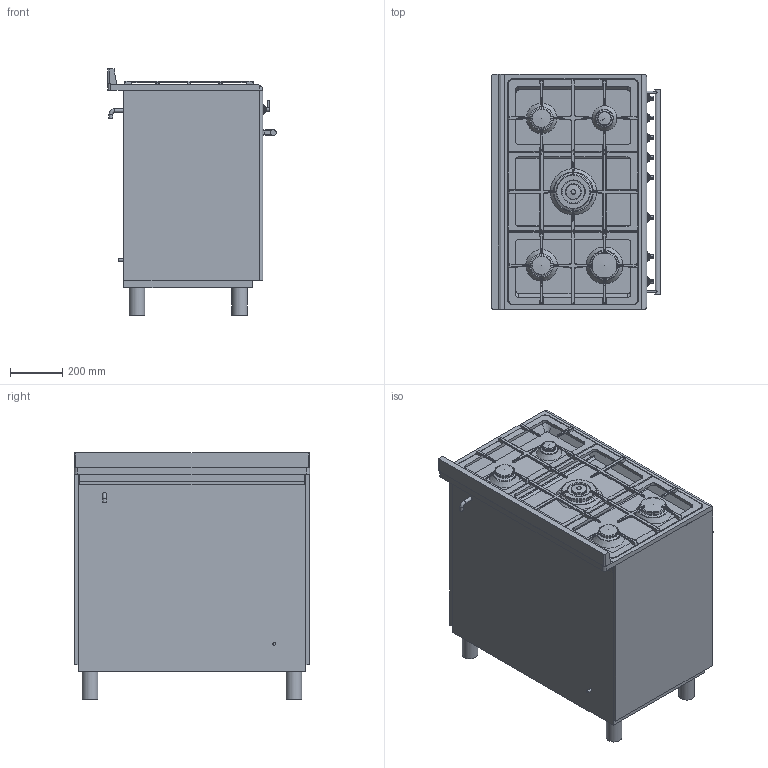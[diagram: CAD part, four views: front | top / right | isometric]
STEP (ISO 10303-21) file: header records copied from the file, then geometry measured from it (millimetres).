
FILE_DESCRIPTION(/* description */ (''),/* implementation_level */ '2;1');
FILE_NAME(/* name */ 'FS9010XS-1.stp',/* time_stamp */ '2021-08-03T17:01:35+02:00',/* author */ (''),/* organization */ (''),/* preprocessor_version */ 'ST-DEVELOPER v16',/* originating_system */ 'SIEMENS PLM Software NX 11.0',/* authorisation */ '');
FILE_SCHEMA (('AUTOMOTIVE_DESIGN { 1 0 10303 214 3 1 1 1 }'));
Length unit declared in the file: millimetre
Products named in the file (1): mart2C28440C944f
Bounding box: 643.39 x 898 x 940.29 mm (x, y, z)
Volume: 346256239.9 mm3; surface area: 8456260.9 mm2
Topology: 55 solids, 55 shells, 991 faces, 2324 edges, 1460 vertices
Faces by surface type: plane 415, cylinder 348, torus 87, bspline 69, cone 58, extrusion 11, sphere 3
Full cylindrical faces by diameter (mm): 4.608 x6, 5 x2, 6 x8, 7 x4, 10 x1, 14 x2, 14.996 x8, 17 x8, 22 x9, 55 x1, 60 x4, 60.611 x1, 65.5 x1, 75 x2, 85.5 x2, 85.7 x1, 100 x1, 110.5 x1, 131 x1, 147 x1
Entity records: 28957 total; most frequent: CARTESIAN_POINT 6262, DIRECTION 4854, ORIENTED_EDGE 4270, EDGE_CURVE 2135, AXIS2_PLACEMENT_3D 1845, VERTEX_POINT 1435, EDGE_LOOP 1202, VECTOR 1164
